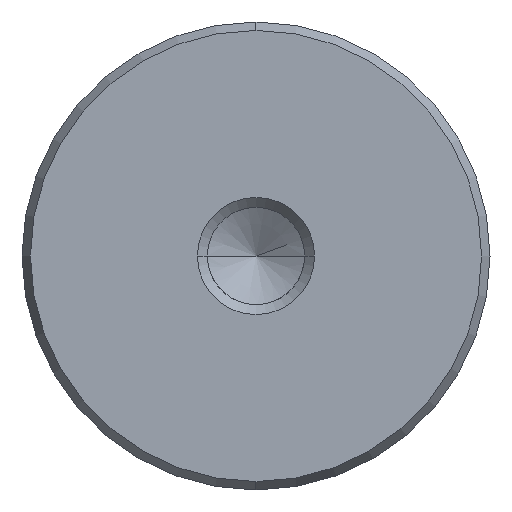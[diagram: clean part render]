
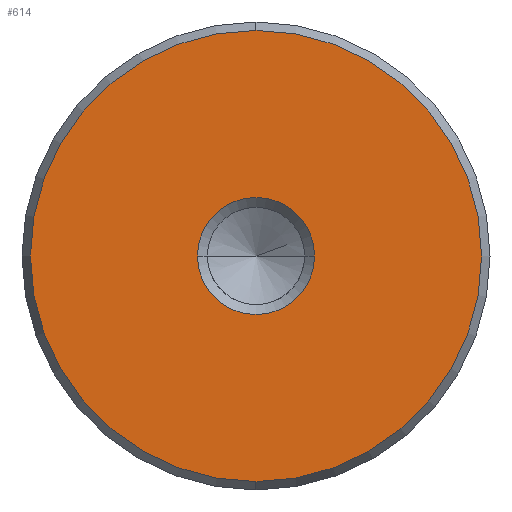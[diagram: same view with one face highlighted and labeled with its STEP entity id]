
A CAD part, left-side view. The second image highlights one B-rep face of the part: STEP entity #614.
In plain terms, the highlighted planar face has unit normal (-1, 0, 0).
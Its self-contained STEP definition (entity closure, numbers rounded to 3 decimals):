
#528=CARTESIAN_POINT('Vertex',(0.,0.,-15.423)) ;
#531=CARTESIAN_POINT('Axis2P3D Location',(0.,0.,0.)) ;
#535=CARTESIAN_POINT('Vertex',(0.,15.423,0.)) ;
#538=CARTESIAN_POINT('Axis2P3D Location',(0.,0.,0.)) ;
#542=CARTESIAN_POINT('Vertex',(0.,0.,15.423)) ;
#564=CARTESIAN_POINT('Axis2P3D Location',(0.,0.,0.)) ;
#568=CARTESIAN_POINT('Vertex',(0.,-15.423,0.)) ;
#571=CARTESIAN_POINT('Axis2P3D Location',(0.,0.,0.)) ;
#585=CARTESIAN_POINT('Axis2P3D Location',(0.,0.,0.)) ;
#596=CARTESIAN_POINT('Axis2P3D Location',(0.,0.,0.)) ;
#600=CARTESIAN_POINT('Vertex',(0.,4.,0.)) ;
#602=CARTESIAN_POINT('Vertex',(0.,-4.,0.)) ;
#605=CARTESIAN_POINT('Axis2P3D Location',(0.,0.,0.)) ;
#532=DIRECTION('Axis2P3D Direction',(1.,0.,-0.)) ;
#539=DIRECTION('Axis2P3D Direction',(1.,0.,-0.)) ;
#565=DIRECTION('Axis2P3D Direction',(1.,0.,-0.)) ;
#572=DIRECTION('Axis2P3D Direction',(1.,0.,-0.)) ;
#586=DIRECTION('Axis2P3D Direction',(1.,0.,-0.)) ;
#587=DIRECTION('Axis2P3D XDirection',(-0.,0.,-1.)) ;
#597=DIRECTION('Axis2P3D Direction',(1.,0.,-0.)) ;
#606=DIRECTION('Axis2P3D Direction',(1.,0.,-0.)) ;
#533=AXIS2_PLACEMENT_3D('Circle Axis2P3D',#531,#532,$) ;
#540=AXIS2_PLACEMENT_3D('Circle Axis2P3D',#538,#539,$) ;
#566=AXIS2_PLACEMENT_3D('Circle Axis2P3D',#564,#565,$) ;
#573=AXIS2_PLACEMENT_3D('Circle Axis2P3D',#571,#572,$) ;
#588=AXIS2_PLACEMENT_3D('Plane Axis2P3D',#585,#586,#587) ;
#598=AXIS2_PLACEMENT_3D('Circle Axis2P3D',#596,#597,$) ;
#607=AXIS2_PLACEMENT_3D('Circle Axis2P3D',#605,#606,$) ;
#591=ORIENTED_EDGE('',*,*,#537,.F.) ;
#592=ORIENTED_EDGE('',*,*,#575,.F.) ;
#593=ORIENTED_EDGE('',*,*,#570,.F.) ;
#594=ORIENTED_EDGE('',*,*,#544,.F.) ;
#611=ORIENTED_EDGE('',*,*,#604,.T.) ;
#612=ORIENTED_EDGE('',*,*,#609,.T.) ;
#613=FACE_BOUND('',#610,.T.) ;
#614=ADVANCED_FACE('720-32x224',(#595,#613),#589,.F.) ;
#534=CIRCLE('generated circle',#533,15.423) ;
#541=CIRCLE('generated circle',#540,15.423) ;
#567=CIRCLE('generated circle',#566,15.423) ;
#574=CIRCLE('generated circle',#573,15.423) ;
#599=CIRCLE('generated circle',#598,4.) ;
#608=CIRCLE('generated circle',#607,4.) ;
#537=EDGE_CURVE('',#529,#536,#534,.T.) ;
#544=EDGE_CURVE('',#536,#543,#541,.T.) ;
#570=EDGE_CURVE('',#543,#569,#567,.T.) ;
#575=EDGE_CURVE('',#569,#529,#574,.T.) ;
#604=EDGE_CURVE('',#601,#603,#599,.T.) ;
#609=EDGE_CURVE('',#603,#601,#608,.T.) ;
#590=EDGE_LOOP('',(#591,#592,#593,#594)) ;
#610=EDGE_LOOP('',(#611,#612)) ;
#595=FACE_OUTER_BOUND('',#590,.T.) ;
#589=PLANE('Plane',#588) ;
#529=VERTEX_POINT('',#528) ;
#536=VERTEX_POINT('',#535) ;
#543=VERTEX_POINT('',#542) ;
#569=VERTEX_POINT('',#568) ;
#601=VERTEX_POINT('',#600) ;
#603=VERTEX_POINT('',#602) ;
